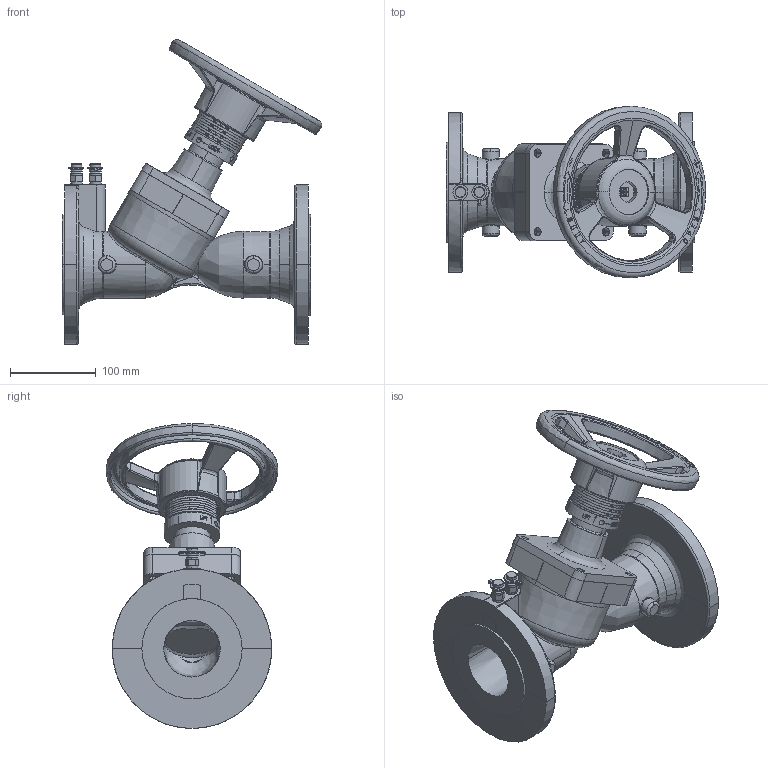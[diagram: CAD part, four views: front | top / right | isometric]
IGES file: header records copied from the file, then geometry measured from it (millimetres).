
Global section: file name: No Iges File Name specified; native system: AutoDesk Inventor R12.0; preprocessor: AutoDesk Inventor Iges Exporter R12.0; date: 20110225.100328; units: millimetre
Bounding box: 302.38 x 200.2 x 355.63 mm (x, y, z)
Volume: 2658275.1 mm3; surface area: 382937.7 mm2
Topology: 1 solids, 1 shells, 949 faces, 2476 edges, 1591 vertices
Faces by surface type: plane 347, bspline 274, cylinder 138, revolution 78, torus 57, cone 55
